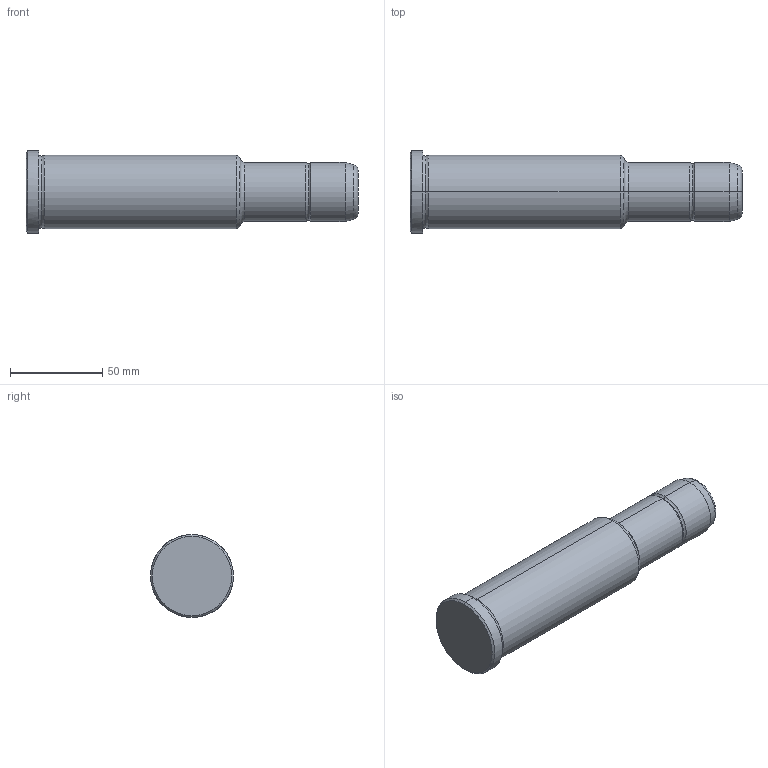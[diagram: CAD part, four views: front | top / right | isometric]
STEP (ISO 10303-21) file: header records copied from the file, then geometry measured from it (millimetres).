
FILE_DESCRIPTION(('CATIA V5 STEP Exchange'),'2;1');
FILE_NAME('C:\Users\Utente\Desktop\IO LAVORO\3D X SITO CF\X SITO\PLASTICA\351\351-32X116X180.stp','2021-09-15T11:41:19+00:00',('none'),('none'),'CATIA Version 5 Release 20 GA (IN-10)','CATIA V5 STEP AP203','none');
FILE_SCHEMA(('CONFIG_CONTROL_DESIGN'));
Length unit declared in the file: millimetre
Products named in the file (1): 351-32X116X180
Bounding box: 180 x 45 x 45 mm (x, y, z)
Volume: 198515 mm3; surface area: 23818.6 mm2
Topology: 1 solids, 1 shells, 30 faces, 86 edges, 60 vertices
Faces by surface type: torus 12, cylinder 8, cone 6, plane 4
Entity records: 1112 total; most frequent: CARTESIAN_POINT 289, ORIENTED_EDGE 172, DIRECTION 138, AXIS2_PLACEMENT_3D 95, EDGE_CURVE 86, CIRCLE 64, VERTEX_POINT 60, EDGE_LOOP 32
